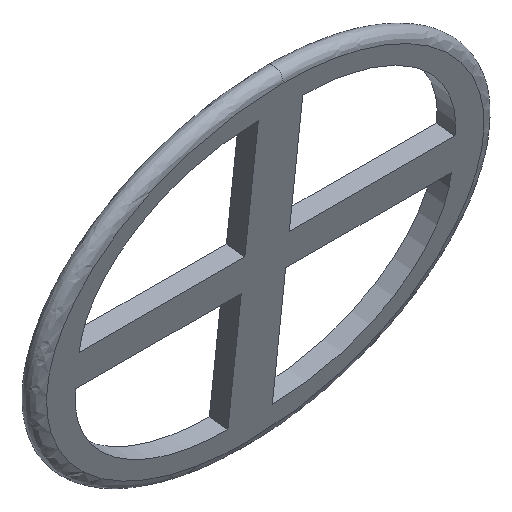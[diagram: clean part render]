
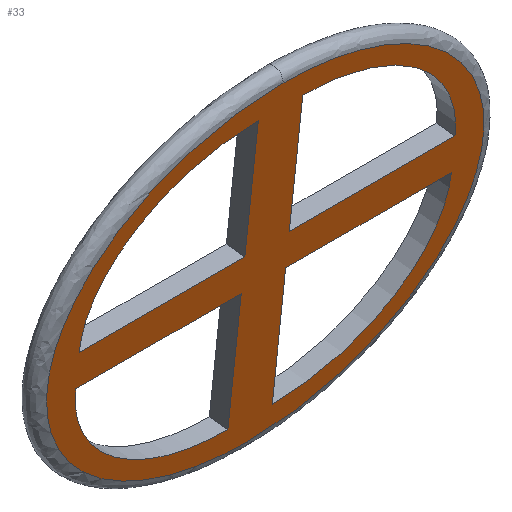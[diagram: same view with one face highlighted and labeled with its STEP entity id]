
A CAD part, isometric view. The second image highlights one B-rep face of the part: STEP entity #33.
In plain terms, the highlighted planar face has unit normal (-0.001, -0.994, -0.107).
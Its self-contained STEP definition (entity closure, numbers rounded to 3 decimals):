
#24=FACE_BOUND('',#70,.T.);
#25=FACE_BOUND('',#71,.T.);
#26=FACE_BOUND('',#72,.T.);
#27=FACE_BOUND('',#73,.T.);
#33=ADVANCED_FACE('',(#51,#24,#25,#26,#27),#308,.T.);
#51=FACE_OUTER_BOUND('',#69,.T.);
#69=EDGE_LOOP('',(#98,#99));
#70=EDGE_LOOP('',(#100,#101,#102));
#71=EDGE_LOOP('',(#103,#104,#105));
#72=EDGE_LOOP('',(#106,#107,#108));
#73=EDGE_LOOP('',(#109,#110,#111));
#98=ORIENTED_EDGE('',*,*,#197,.T.);
#99=ORIENTED_EDGE('',*,*,#231,.T.);
#100=ORIENTED_EDGE('',*,*,#204,.F.);
#101=ORIENTED_EDGE('',*,*,#189,.F.);
#102=ORIENTED_EDGE('',*,*,#188,.F.);
#103=ORIENTED_EDGE('',*,*,#190,.F.);
#104=ORIENTED_EDGE('',*,*,#208,.F.);
#105=ORIENTED_EDGE('',*,*,#191,.F.);
#106=ORIENTED_EDGE('',*,*,#192,.F.);
#107=ORIENTED_EDGE('',*,*,#215,.F.);
#108=ORIENTED_EDGE('',*,*,#193,.F.);
#109=ORIENTED_EDGE('',*,*,#225,.T.);
#110=ORIENTED_EDGE('',*,*,#194,.T.);
#111=ORIENTED_EDGE('',*,*,#195,.T.);
#188=EDGE_CURVE('',#279,#280,#232,.T.);
#189=EDGE_CURVE('',#280,#281,#233,.T.);
#190=EDGE_CURVE('',#283,#284,#234,.T.);
#191=EDGE_CURVE('',#284,#282,#235,.T.);
#192=EDGE_CURVE('',#286,#287,#236,.T.);
#193=EDGE_CURVE('',#287,#285,#237,.T.);
#194=EDGE_CURVE('',#288,#289,#238,.T.);
#195=EDGE_CURVE('',#289,#290,#239,.T.);
#197=EDGE_CURVE('',#303,#307,#259,.T.);
#204=EDGE_CURVE('',#281,#279,#261,.T.);
#208=EDGE_CURVE('',#282,#283,#265,.T.);
#215=EDGE_CURVE('',#285,#286,#269,.T.);
#225=EDGE_CURVE('',#290,#288,#271,.T.);
#231=EDGE_CURVE('',#307,#303,#277,.T.);
#232=B_SPLINE_CURVE_WITH_KNOTS('',1,(#1213,#1214),.UNSPECIFIED.,.F.,.F.,
(2,2),(6.283,6.783),.UNSPECIFIED.);
#233=B_SPLINE_CURVE_WITH_KNOTS('',1,(#1215,#1216),.UNSPECIFIED.,.F.,.F.,
(2,2),(6.783,7.783),.UNSPECIFIED.);
#234=B_SPLINE_CURVE_WITH_KNOTS('',1,(#1217,#1218),.UNSPECIFIED.,.F.,.F.,
(2,2),(5.142,6.142),.UNSPECIFIED.);
#235=B_SPLINE_CURVE_WITH_KNOTS('',1,(#1219,#1220),.UNSPECIFIED.,.F.,.F.,
(2,2),(6.142,6.642),.UNSPECIFIED.);
#236=B_SPLINE_CURVE_WITH_KNOTS('',1,(#1221,#1222),.UNSPECIFIED.,.F.,.F.,
(2,2),(6.142,7.142),.UNSPECIFIED.);
#237=B_SPLINE_CURVE_WITH_KNOTS('',1,(#1223,#1224),.UNSPECIFIED.,.F.,.F.,
(2,2),(7.142,7.642),.UNSPECIFIED.);
#238=B_SPLINE_CURVE_WITH_KNOTS('',1,(#1225,#1226),.UNSPECIFIED.,.F.,.F.,
(2,2),(0.,1.),.UNSPECIFIED.);
#239=B_SPLINE_CURVE_WITH_KNOTS('',1,(#1227,#1228),.UNSPECIFIED.,.F.,.F.,
(2,2),(1.,1.5),.UNSPECIFIED.);
#259=(
BOUNDED_CURVE()
B_SPLINE_CURVE(2,(#1234,#1235,#1236,#1237,#1238),.UNSPECIFIED.,.F.,.F.)
B_SPLINE_CURVE_WITH_KNOTS((3,2,3),(0.,1.571,3.142),
 .UNSPECIFIED.)
CURVE()
GEOMETRIC_REPRESENTATION_ITEM()
RATIONAL_B_SPLINE_CURVE((1.,0.707,1.,0.707,1.))
REPRESENTATION_ITEM('')
);
#261=(
BOUNDED_CURVE()
B_SPLINE_CURVE(2,(#1252,#1253,#1254),.UNSPECIFIED.,.F.,.F.)
B_SPLINE_CURVE_WITH_KNOTS((3,3),(7.783,9.354),
 .UNSPECIFIED.)
CURVE()
GEOMETRIC_REPRESENTATION_ITEM()
RATIONAL_B_SPLINE_CURVE((1.,0.707,1.))
REPRESENTATION_ITEM('')
);
#265=(
BOUNDED_CURVE()
B_SPLINE_CURVE(2,(#1262,#1263,#1264),.UNSPECIFIED.,.F.,.F.)
B_SPLINE_CURVE_WITH_KNOTS((3,3),(3.571,5.142),
 .UNSPECIFIED.)
CURVE()
GEOMETRIC_REPRESENTATION_ITEM()
RATIONAL_B_SPLINE_CURVE((1.,0.707,1.))
REPRESENTATION_ITEM('')
);
#269=(
BOUNDED_CURVE()
B_SPLINE_CURVE(2,(#1278,#1279,#1280),.UNSPECIFIED.,.F.,.F.)
B_SPLINE_CURVE_WITH_KNOTS((3,3),(4.571,6.142),
 .UNSPECIFIED.)
CURVE()
GEOMETRIC_REPRESENTATION_ITEM()
RATIONAL_B_SPLINE_CURVE((1.,0.707,1.))
REPRESENTATION_ITEM('')
);
#271=(
BOUNDED_CURVE()
B_SPLINE_CURVE(2,(#1300,#1301,#1302),.UNSPECIFIED.,.F.,.F.)
B_SPLINE_CURVE_WITH_KNOTS((3,3),(1.5,3.071),.UNSPECIFIED.)
CURVE()
GEOMETRIC_REPRESENTATION_ITEM()
RATIONAL_B_SPLINE_CURVE((1.,0.707,1.))
REPRESENTATION_ITEM('')
);
#277=(
BOUNDED_CURVE()
B_SPLINE_CURVE(2,(#1371,#1372,#1373,#1374,#1375),.UNSPECIFIED.,.F.,.F.)
B_SPLINE_CURVE_WITH_KNOTS((3,2,3),(3.142,4.712,6.283),
 .UNSPECIFIED.)
CURVE()
GEOMETRIC_REPRESENTATION_ITEM()
RATIONAL_B_SPLINE_CURVE((1.,0.707,1.,0.707,1.))
REPRESENTATION_ITEM('')
);
#279=VERTEX_POINT('',#1127);
#280=VERTEX_POINT('',#1128);
#281=VERTEX_POINT('',#1129);
#282=VERTEX_POINT('',#1130);
#283=VERTEX_POINT('',#1131);
#284=VERTEX_POINT('',#1132);
#285=VERTEX_POINT('',#1133);
#286=VERTEX_POINT('',#1134);
#287=VERTEX_POINT('',#1135);
#288=VERTEX_POINT('',#1136);
#289=VERTEX_POINT('',#1137);
#290=VERTEX_POINT('',#1138);
#303=VERTEX_POINT('',#1151);
#307=VERTEX_POINT('',#1155);
#308=PLANE('',#346);
#346=AXIS2_PLACEMENT_3D('',#552,#359,$);
#359=DIRECTION('',(-0.001,-0.994,-0.107));
#552=CARTESIAN_POINT('',(-35.975,-91.675,-18.098));
#1127=CARTESIAN_POINT('',(-3.681,-92.166,-13.911));
#1128=CARTESIAN_POINT('',(-3.681,-94.337,6.234));
#1129=CARTESIAN_POINT('',(-30.413,-94.305,6.237));
#1130=CARTESIAN_POINT('',(-3.681,-97.092,31.778));
#1131=CARTESIAN_POINT('',(-30.413,-94.887,11.637));
#1132=CARTESIAN_POINT('',(-3.681,-94.92,11.634));
#1133=CARTESIAN_POINT('',(3.485,-92.174,-13.912));
#1134=CARTESIAN_POINT('',(30.216,-94.378,6.229));
#1135=CARTESIAN_POINT('',(3.485,-94.346,6.233));
#1136=CARTESIAN_POINT('',(30.216,-94.96,11.629));
#1137=CARTESIAN_POINT('',(3.485,-94.928,11.633));
#1138=CARTESIAN_POINT('',(3.485,-97.1,31.777));
#1151=CARTESIAN_POINT('',(-0.098,-91.775,-17.573));
#1155=CARTESIAN_POINT('',(-0.098,-97.491,35.439));
#1213=CARTESIAN_POINT('',(-3.681,-92.166,-13.911));
#1214=CARTESIAN_POINT('',(-3.681,-94.337,6.234));
#1215=CARTESIAN_POINT('',(-3.681,-94.337,6.234));
#1216=CARTESIAN_POINT('',(-30.413,-94.305,6.237));
#1217=CARTESIAN_POINT('',(-30.413,-94.887,11.637));
#1218=CARTESIAN_POINT('',(-3.681,-94.92,11.634));
#1219=CARTESIAN_POINT('',(-3.681,-94.92,11.634));
#1220=CARTESIAN_POINT('',(-3.681,-97.092,31.778));
#1221=CARTESIAN_POINT('',(30.216,-94.378,6.229));
#1222=CARTESIAN_POINT('',(3.485,-94.346,6.233));
#1223=CARTESIAN_POINT('',(3.485,-94.346,6.233));
#1224=CARTESIAN_POINT('',(3.485,-92.174,-13.912));
#1225=CARTESIAN_POINT('',(30.216,-94.96,11.629));
#1226=CARTESIAN_POINT('',(3.485,-94.928,11.633));
#1227=CARTESIAN_POINT('',(3.485,-94.928,11.633));
#1228=CARTESIAN_POINT('',(3.485,-97.1,31.777));
#1234=CARTESIAN_POINT('',(-0.098,-91.775,-17.573));
#1235=CARTESIAN_POINT('',(35.075,-91.817,-17.578));
#1236=CARTESIAN_POINT('',(35.075,-94.675,8.929));
#1237=CARTESIAN_POINT('',(35.075,-97.533,35.435));
#1238=CARTESIAN_POINT('',(-0.098,-97.491,35.439));
#1252=CARTESIAN_POINT('',(-30.413,-94.305,6.237));
#1253=CARTESIAN_POINT('',(-30.413,-92.133,-13.907));
#1254=CARTESIAN_POINT('',(-3.681,-92.166,-13.911));
#1262=CARTESIAN_POINT('',(-3.681,-97.092,31.778));
#1263=CARTESIAN_POINT('',(-30.413,-97.059,31.782));
#1264=CARTESIAN_POINT('',(-30.413,-94.887,11.637));
#1278=CARTESIAN_POINT('',(3.485,-92.174,-13.912));
#1279=CARTESIAN_POINT('',(30.216,-92.206,-13.915));
#1280=CARTESIAN_POINT('',(30.216,-94.378,6.229));
#1300=CARTESIAN_POINT('',(3.485,-97.1,31.777));
#1301=CARTESIAN_POINT('',(30.216,-97.132,31.774));
#1302=CARTESIAN_POINT('',(30.216,-94.96,11.629));
#1371=CARTESIAN_POINT('',(-0.098,-97.491,35.439));
#1372=CARTESIAN_POINT('',(-35.271,-97.448,35.444));
#1373=CARTESIAN_POINT('',(-35.271,-94.59,8.938));
#1374=CARTESIAN_POINT('',(-35.271,-91.733,-17.568));
#1375=CARTESIAN_POINT('',(-0.098,-91.775,-17.573));
